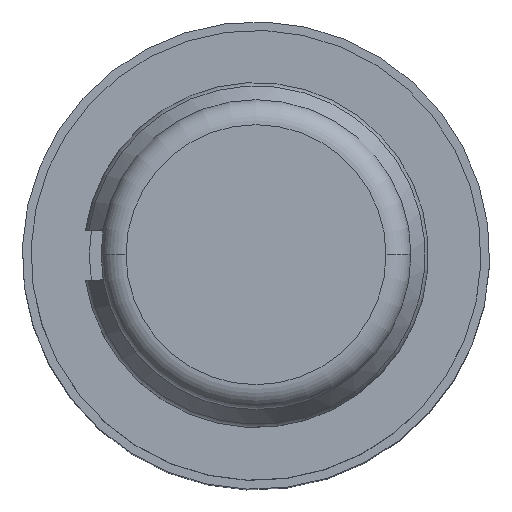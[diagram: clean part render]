
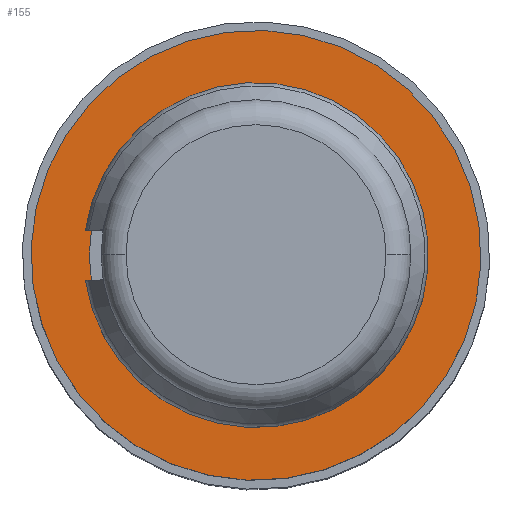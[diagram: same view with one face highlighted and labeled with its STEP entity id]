
A CAD part, top view. The second image highlights one B-rep face of the part: STEP entity #155.
In plain terms, the highlighted planar face has unit normal (0, 0, 1).
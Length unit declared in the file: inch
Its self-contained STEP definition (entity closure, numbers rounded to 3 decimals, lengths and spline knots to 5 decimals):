
#36 = EDGE_LOOP ( 'NONE', ( #1577, #1146 ) ) ;
#155 = ADVANCED_FACE ( 'NONE', ( #849, #2292 ), #2035, .F. ) ;
#174 = EDGE_CURVE ( 'NONE', #1450, #1484, #2323, .T. ) ;
#287 = ORIENTED_EDGE ( 'NONE', *, *, #2251, .F. ) ;
#305 = DIRECTION ( 'NONE',  ( 0.135, -0.991, 0. ) ) ;
#316 = VERTEX_POINT ( 'NONE', #462 ) ;
#378 = CARTESIAN_POINT ( 'NONE',  ( 0., 0., -0.16 ) ) ;
#462 = CARTESIAN_POINT ( 'NONE',  ( 0.0665, 0., -0.16 ) ) ;
#504 = CARTESIAN_POINT ( 'NONE',  ( 0., 0., -0.16 ) ) ;
#518 = DIRECTION ( 'NONE',  ( 0., 0., -1. ) ) ;
#574 = DIRECTION ( 'NONE',  ( 0.135, -0.991, 0. ) ) ;
#589 = VERTEX_POINT ( 'NONE', #1872 ) ;
#598 = AXIS2_PLACEMENT_3D ( 'NONE', #378, #1690, #574 ) ;
#639 = EDGE_CURVE ( 'NONE', #316, #589, #782, .T. ) ;
#782 = CIRCLE ( 'NONE', #2227, 0.0665 ) ;
#849 = FACE_BOUND ( 'NONE', #2054, .T. ) ;
#861 = CARTESIAN_POINT ( 'NONE',  ( 0.01213, -0.08918, -0.16 ) ) ;
#1047 = CIRCLE ( 'NONE', #598, 0.09 ) ;
#1099 = DIRECTION ( 'NONE',  ( 1., 0., 0. ) ) ;
#1109 = DIRECTION ( 'NONE',  ( 0., 0., 1. ) ) ;
#1146 = ORIENTED_EDGE ( 'NONE', *, *, #2335, .T. ) ;
#1237 = CARTESIAN_POINT ( 'NONE',  ( -0.01213, 0.08918, -0.16 ) ) ;
#1249 = ORIENTED_EDGE ( 'NONE', *, *, #639, .F. ) ;
#1293 = CARTESIAN_POINT ( 'NONE',  ( 0., 0., -0.16 ) ) ;
#1450 = VERTEX_POINT ( 'NONE', #861 ) ;
#1484 = VERTEX_POINT ( 'NONE', #1237 ) ;
#1577 = ORIENTED_EDGE ( 'NONE', *, *, #174, .T. ) ;
#1600 = AXIS2_PLACEMENT_3D ( 'NONE', #1840, #518, #1643 ) ;
#1629 = DIRECTION ( 'NONE',  ( 0., 0., 1. ) ) ;
#1643 = DIRECTION ( 'NONE',  ( -1., 0., 0. ) ) ;
#1690 = DIRECTION ( 'NONE',  ( 0., 0., 1. ) ) ;
#1840 = CARTESIAN_POINT ( 'NONE',  ( 0., 0.0665, -0.16 ) ) ;
#1872 = CARTESIAN_POINT ( 'NONE',  ( -0.0665, 0., -0.16 ) ) ;
#2035 = PLANE ( 'NONE',  #1600 ) ;
#2045 = AXIS2_PLACEMENT_3D ( 'NONE', #2242, #1109, #2431 ) ;
#2054 = EDGE_LOOP ( 'NONE', ( #1249, #287 ) ) ;
#2227 = AXIS2_PLACEMENT_3D ( 'NONE', #1293, #2425, #1099 ) ;
#2242 = CARTESIAN_POINT ( 'NONE',  ( 0., 0., -0.16 ) ) ;
#2251 = EDGE_CURVE ( 'NONE', #589, #316, #2299, .T. ) ;
#2292 = FACE_OUTER_BOUND ( 'NONE', #36, .T. ) ;
#2299 = CIRCLE ( 'NONE', #2045, 0.0665 ) ;
#2323 = CIRCLE ( 'NONE', #2367, 0.09 ) ;
#2335 = EDGE_CURVE ( 'NONE', #1484, #1450, #1047, .T. ) ;
#2367 = AXIS2_PLACEMENT_3D ( 'NONE', #504, #1629, #305 ) ;
#2425 = DIRECTION ( 'NONE',  ( 0., 0., 1. ) ) ;
#2431 = DIRECTION ( 'NONE',  ( 1., 0., 0. ) ) ;
